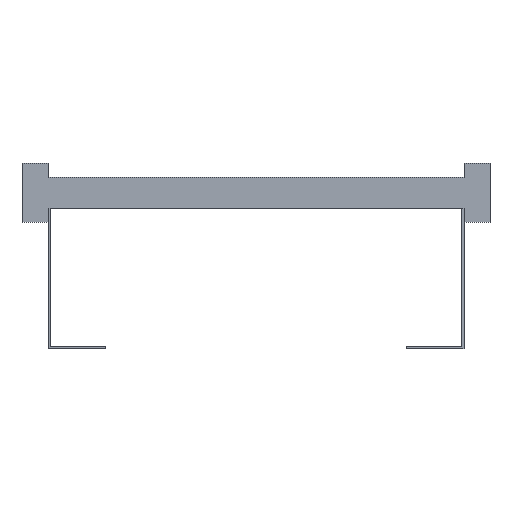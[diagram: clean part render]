
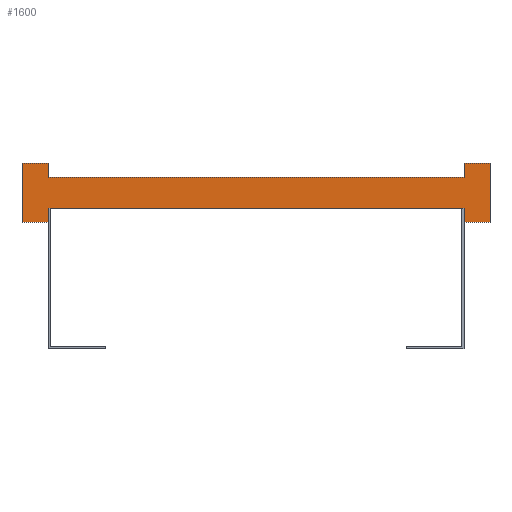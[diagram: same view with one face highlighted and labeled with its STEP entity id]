
A CAD part, front view. The second image highlights one B-rep face of the part: STEP entity #1600.
In plain terms, the highlighted planar face has unit normal (0, -1, 0).
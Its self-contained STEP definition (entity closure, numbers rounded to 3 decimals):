
#1=DIRECTION('',(0.,0.,1.));
#2=VECTOR('',#1,13.5);
#3=CARTESIAN_POINT('',(200.,0.,-28.5));
#4=LINE('',#3,#2);
#5=DIRECTION('',(0.,0.,-1.));
#6=VECTOR('',#5,13.5);
#7=CARTESIAN_POINT('',(-200.,0.,-15.));
#8=LINE('',#7,#6);
#9=DIRECTION('',(-1.,0.,0.));
#10=VECTOR('',#9,25.);
#11=CARTESIAN_POINT('',(-200.,0.,-28.5));
#12=LINE('',#11,#10);
#13=DIRECTION('',(0.,0.,1.));
#14=VECTOR('',#13,57.);
#15=CARTESIAN_POINT('',(-225.,0.,-28.5));
#16=LINE('',#15,#14);
#17=DIRECTION('',(1.,0.,0.));
#18=VECTOR('',#17,25.);
#19=CARTESIAN_POINT('',(-225.,0.,28.5));
#20=LINE('',#19,#18);
#21=DIRECTION('',(0.,0.,-1.));
#22=VECTOR('',#21,13.5);
#23=CARTESIAN_POINT('',(-200.,0.,28.5));
#24=LINE('',#23,#22);
#25=DIRECTION('',(0.,0.,1.));
#26=VECTOR('',#25,13.5);
#27=CARTESIAN_POINT('',(200.,0.,15.));
#28=LINE('',#27,#26);
#29=DIRECTION('',(1.,0.,0.));
#30=VECTOR('',#29,25.);
#31=CARTESIAN_POINT('',(200.,0.,28.5));
#32=LINE('',#31,#30);
#33=DIRECTION('',(0.,0.,-1.));
#34=VECTOR('',#33,57.);
#35=CARTESIAN_POINT('',(225.,0.,28.5));
#36=LINE('',#35,#34);
#37=DIRECTION('',(-1.,0.,0.));
#38=VECTOR('',#37,25.);
#39=CARTESIAN_POINT('',(225.,0.,-28.5));
#40=LINE('',#39,#38);
#1169=DIRECTION('',(1.,0.,0.));
#1170=VECTOR('',#1169,400.);
#1171=CARTESIAN_POINT('',(-200.,0.,-15.));
#1172=LINE('',#1171,#1170);
#1181=DIRECTION('',(1.,0.,0.));
#1182=VECTOR('',#1181,400.);
#1183=CARTESIAN_POINT('',(-200.,0.,15.));
#1184=LINE('',#1183,#1182);
#1185=CARTESIAN_POINT('',(-225.,0.,28.5));
#1186=CARTESIAN_POINT('',(-200.,0.,28.5));
#1187=VERTEX_POINT('',#1185);
#1188=VERTEX_POINT('',#1186);
#1189=CARTESIAN_POINT('',(-200.,0.,-28.5));
#1190=CARTESIAN_POINT('',(-225.,0.,-28.5));
#1191=VERTEX_POINT('',#1189);
#1192=VERTEX_POINT('',#1190);
#1193=CARTESIAN_POINT('',(225.,0.,28.5));
#1194=CARTESIAN_POINT('',(225.,0.,-28.5));
#1195=VERTEX_POINT('',#1193);
#1196=VERTEX_POINT('',#1194);
#1197=CARTESIAN_POINT('',(200.,0.,-28.5));
#1198=VERTEX_POINT('',#1197);
#1199=CARTESIAN_POINT('',(200.,0.,28.5));
#1200=VERTEX_POINT('',#1199);
#1217=CARTESIAN_POINT('',(-200.,0.,-15.));
#1219=VERTEX_POINT('',#1217);
#1221=CARTESIAN_POINT('',(-200.,0.,15.));
#1223=VERTEX_POINT('',#1221);
#1225=CARTESIAN_POINT('',(200.,0.,-15.));
#1227=VERTEX_POINT('',#1225);
#1229=CARTESIAN_POINT('',(200.,0.,15.));
#1231=VERTEX_POINT('',#1229);
#1569=CARTESIAN_POINT('',(0.,0.,0.));
#1570=DIRECTION('',(0.,1.,0.));
#1571=DIRECTION('',(1.,0.,0.));
#1572=AXIS2_PLACEMENT_3D('',#1569,#1570,#1571);
#1573=PLANE('',#1572);
#1575=ORIENTED_EDGE('',*,*,#1574,.T.);
#1577=ORIENTED_EDGE('',*,*,#1576,.F.);
#1579=ORIENTED_EDGE('',*,*,#1578,.T.);
#1581=ORIENTED_EDGE('',*,*,#1580,.T.);
#1583=ORIENTED_EDGE('',*,*,#1582,.T.);
#1585=ORIENTED_EDGE('',*,*,#1584,.T.);
#1587=ORIENTED_EDGE('',*,*,#1586,.T.);
#1589=ORIENTED_EDGE('',*,*,#1588,.T.);
#1591=ORIENTED_EDGE('',*,*,#1590,.T.);
#1593=ORIENTED_EDGE('',*,*,#1592,.T.);
#1595=ORIENTED_EDGE('',*,*,#1594,.T.);
#1597=ORIENTED_EDGE('',*,*,#1596,.T.);
#1598=EDGE_LOOP('',(#1575,#1577,#1579,#1581,#1583,#1585,#1587,#1589,#1591,#1593,
#1595,#1597));
#1599=FACE_OUTER_BOUND('',#1598,.F.);
#1600=ADVANCED_FACE('',(#1599),#1573,.F.);
#1574=EDGE_CURVE('',#1198,#1227,#4,.T.);
#1576=EDGE_CURVE('',#1219,#1227,#1172,.T.);
#1578=EDGE_CURVE('',#1219,#1191,#8,.T.);
#1580=EDGE_CURVE('',#1191,#1192,#12,.T.);
#1582=EDGE_CURVE('',#1192,#1187,#16,.T.);
#1584=EDGE_CURVE('',#1187,#1188,#20,.T.);
#1586=EDGE_CURVE('',#1188,#1223,#24,.T.);
#1588=EDGE_CURVE('',#1223,#1231,#1184,.T.);
#1590=EDGE_CURVE('',#1231,#1200,#28,.T.);
#1592=EDGE_CURVE('',#1200,#1195,#32,.T.);
#1594=EDGE_CURVE('',#1195,#1196,#36,.T.);
#1596=EDGE_CURVE('',#1196,#1198,#40,.T.);
